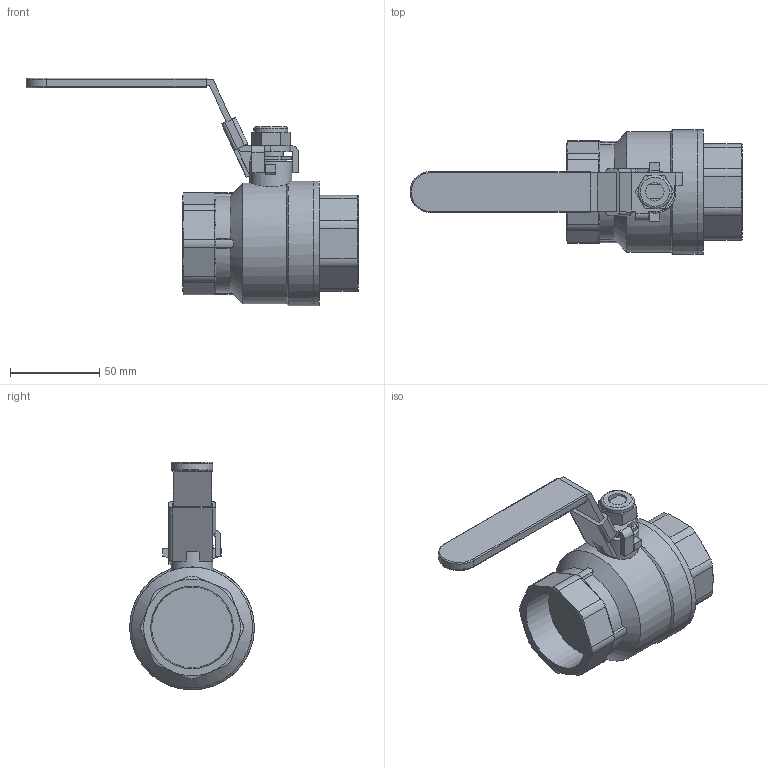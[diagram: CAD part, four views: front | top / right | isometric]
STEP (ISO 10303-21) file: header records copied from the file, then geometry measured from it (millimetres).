
FILE_DESCRIPTION((' '),'2;1');
FILE_NAME('\\JOMARNAS\Data\Marketing\Public\CAD\Brass\Leaded\JF-100T-LH\1.5_JF-100T-LH_100-107LHFusionCopy.stp.step','2017-07-20T08:23:50',(' '),(' '),' ','ACIS',' ');
FILE_SCHEMA(('CONFIG_CONTROL_DESIGN'));
Length unit declared in the file: inch
Products named in the file (9): \\JOMARNAS\Data\Marketing\Public\CAD\Brass\Leaded\JF-100T-LH\1.5_JF-100T-LH_100-107LHFusionCopy.stp.step; Body1; Body2; Body3; Body4; Body5; Body6; Body7; Body8
Assembly tree (8 placements, depth 2):
  \\JOMARNAS\Data\Marketing\Public\CAD\Brass\Leaded\JF-100T-LH\1.5_JF-100T-LH_100-107LHFusionCopy.stp.step
    Body1
    Body2
    Body3
    Body4
    Body5
    Body6
    Body7
    Body8
Bounding box: 185.83 x 69.85 x 127.43 mm (x, y, z)
Volume: 273923.8 mm3; surface area: 60790 mm2
Topology: 8 solids, 8 shells, 223 faces, 555 edges, 354 vertices
Faces by surface type: plane 123, cylinder 63, cone 19, torus 11, bspline 7
Full cylindrical faces by diameter (mm): 10.414 x1, 13.97 x1, 14.732 x1, 18.161 x1, 18.796 x1, 23.749 x1, 67.691 x1, 69.85 x2
Entity records: 7966 total; most frequent: CARTESIAN_POINT 1561, DIRECTION 1078, ORIENTED_EDGE 1072, EDGE_CURVE 536, AXIS2_PLACEMENT_3D 390, VERTEX_POINT 348, VECTOR 298, LINE 298
